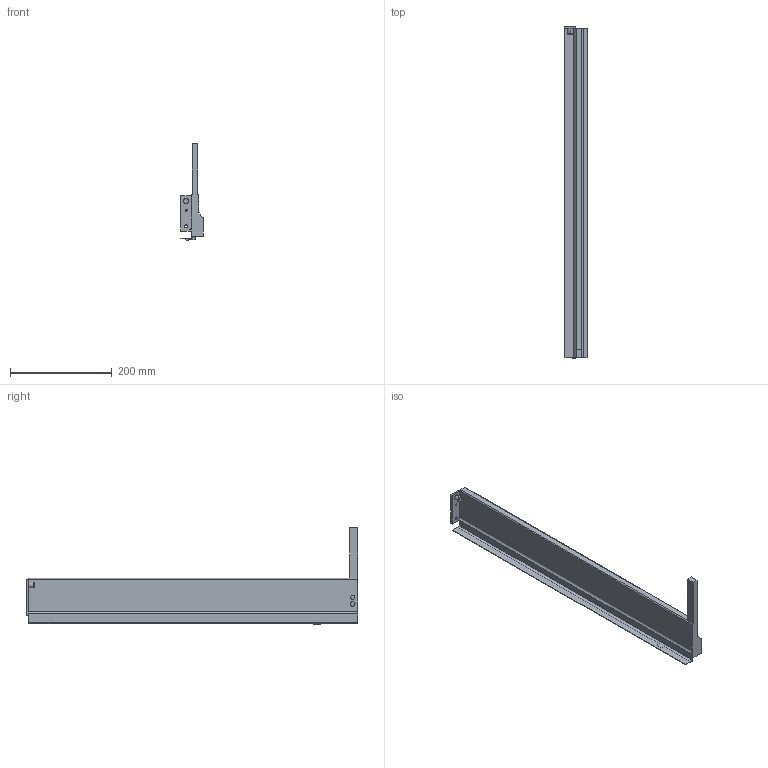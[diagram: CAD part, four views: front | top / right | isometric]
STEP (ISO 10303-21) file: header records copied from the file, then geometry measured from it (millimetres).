
FILE_DESCRIPTION (( 'STEP AP214' ), '1' );
FILE_NAME ('IMOS_NOVA-Pro_Crystal_Dekor-H90_CL_NL650_RE.step', '2010-09-28T09:47:08', ( 'Grass' ), ( '' ), 'SwSTEP 2.0', 'SolidWorks 2010', '' );
FILE_SCHEMA (( 'AUTOMOTIVE_DESIGN' ));
Length unit declared in the file: millimetre
Products named in the file (1): IMOS_NOVA-Pro_Crystal_Dekor-H90_CL_NL650_RE
Bounding box: 44.3 x 652.7 x 190.38 mm (x, y, z)
Volume: 587467.7 mm3; surface area: 228816.4 mm2
Topology: 1 solids, 1 shells, 94 faces, 256 edges, 169 vertices
Faces by surface type: plane 59, cylinder 30, cone 4, bspline 1
Entity records: 3009 total; most frequent: CARTESIAN_POINT 533, ORIENTED_EDGE 512, DIRECTION 506, EDGE_CURVE 256, LINE 190, VECTOR 190, VERTEX_POINT 169, AXIS2_PLACEMENT_3D 158
